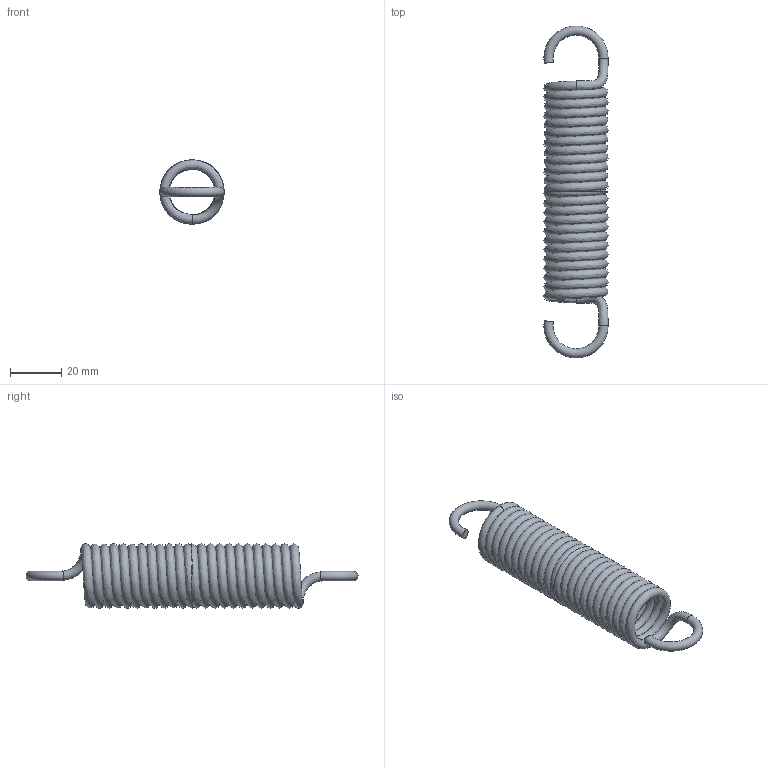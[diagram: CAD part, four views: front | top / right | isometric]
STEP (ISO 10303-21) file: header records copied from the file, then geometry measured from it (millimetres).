
FILE_DESCRIPTION(/* description */ ('473 | 6,98 | 0'),/* implementation_level */ '2;1');
FILE_NAME(/* name */ 'T12250.step',/* time_stamp */ '2026-10-05T10:02:46+02:00',/* author */ ('impex-ready.pl'),/* organization */ ('T12250'),/* preprocessor_version */ 'ST-DEVELOPER v20.1',/* originating_system */ 'Autodesk Inventor 2026',/* authorisation */ 'stal sprezynowa');
FILE_SCHEMA (('AUTOMOTIVE_DESIGN { 1 0 10303 214 3 1 1 }'));
Length unit declared in the file: millimetre
Products named in the file (1): T12250
Bounding box: 25 x 129.2 x 25 mm (x, y, z)
Volume: 16922.7 mm3; surface area: 18888.4 mm2
Topology: 1 solids, 1 shells, 10 faces, 34 edges, 22 vertices
Faces by surface type: plane 4, bspline 4, torus 2
Entity records: 5360 total; most frequent: CARTESIAN_POINT 5048, ORIENTED_EDGE 68, DIRECTION 42, EDGE_CURVE 34, VERTEX_POINT 22, AXIS2_PLACEMENT_3D 21, B_SPLINE_CURVE_WITH_KNOTS 20, CIRCLE 14
